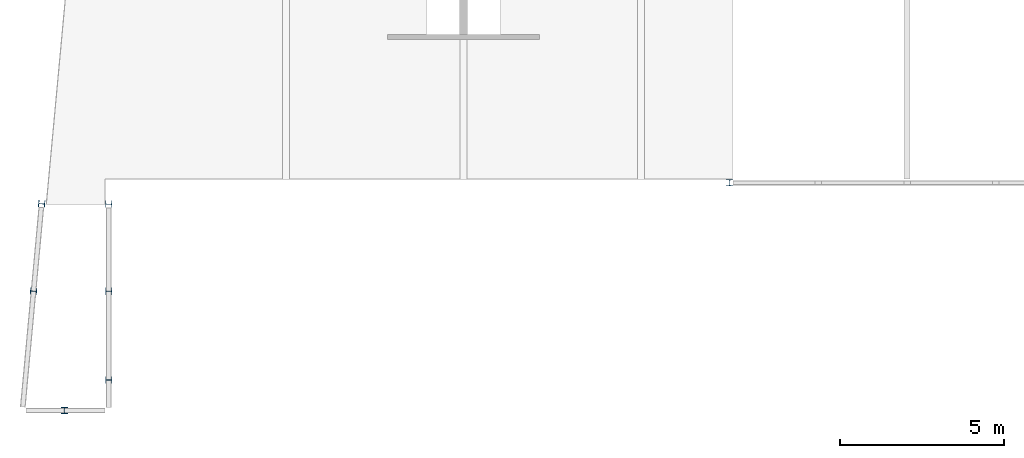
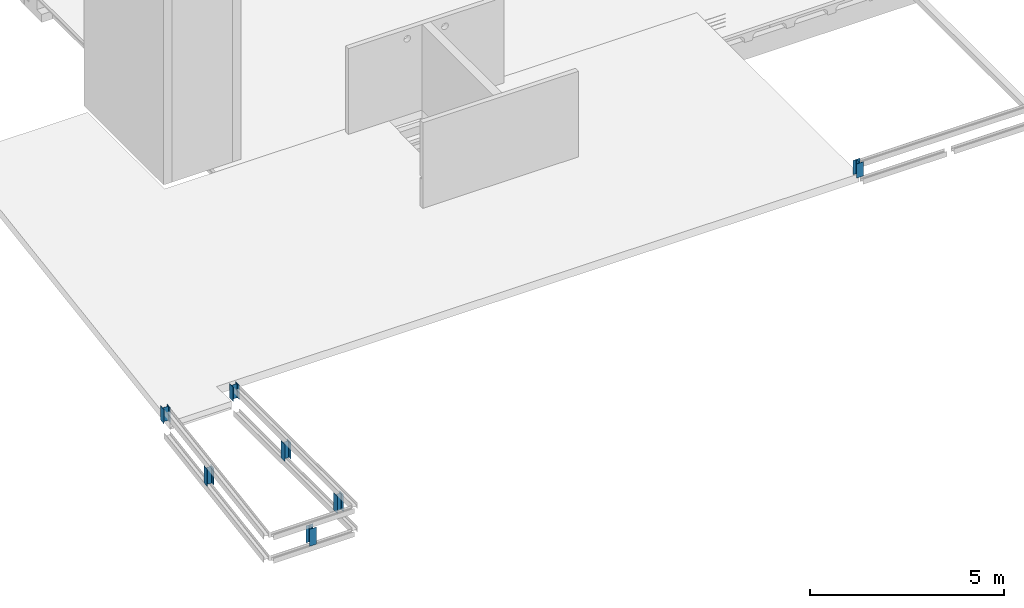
# One storey, part 4 of 36: 7 columns.
"""IFC2X3 building model written with IfcOpenShell, lengths in millimetres."""

from ifc_helpers import new_model, entity, si_unit, converted_unit, derived_unit, direction, frame, frame_2d, origin, place, context, subcontext, project, spatial, polyline, circle_curve, parameter, trimmed, segment, composite_curve, outline, extrude, source, transform, mapped, material, type_object, type_shapes, element, save


model = new_model("IFC2X3")

# Units and contexts
model_context = context("Model", 3, precision=0.01, world=origin(), true_north=direction((6.12303176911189e-17, 1.0)))
body_context = subcontext(model_context, "Body", "Model", "MODEL_VIEW")
ifc_project = project(units=[si_unit("LENGTHUNIT", "METRE", prefix="MILLI"), si_unit("AREAUNIT", "SQUARE_METRE"), si_unit("VOLUMEUNIT", "CUBIC_METRE"), converted_unit("PLANEANGLEUNIT", "DEGREE", entity("IfcRatioMeasure", 0.0174532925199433), si_unit("PLANEANGLEUNIT", "RADIAN"), dimensions=[0, 0, 0, 0, 0, 0, 0]), si_unit("MASSUNIT", "GRAM", prefix="KILO"), derived_unit("MASSDENSITYUNIT", [(si_unit("MASSUNIT", "GRAM", prefix="KILO"), 1), (si_unit("LENGTHUNIT", "METRE"), -3)]), si_unit("TIMEUNIT", "SECOND"), si_unit("FREQUENCYUNIT", "HERTZ"), si_unit("THERMODYNAMICTEMPERATUREUNIT", "DEGREE_CELSIUS"), derived_unit("THERMALTRANSMITTANCEUNIT", [(si_unit("MASSUNIT", "GRAM", prefix="KILO"), 1), (si_unit("THERMODYNAMICTEMPERATUREUNIT", "KELVIN"), -1), (si_unit("TIMEUNIT", "SECOND"), -3)]), derived_unit("VOLUMETRICFLOWRATEUNIT", [(si_unit("LENGTHUNIT", "METRE"), 3), (si_unit("TIMEUNIT", "SECOND"), -1)]), si_unit("ELECTRICCURRENTUNIT", "AMPERE"), si_unit("ELECTRICVOLTAGEUNIT", "VOLT"), si_unit("POWERUNIT", "WATT"), si_unit("FORCEUNIT", "NEWTON", prefix="KILO"), si_unit("ILLUMINANCEUNIT", "LUX"), si_unit("LUMINOUSFLUXUNIT", "LUMEN"), si_unit("LUMINOUSINTENSITYUNIT", "CANDELA"), derived_unit("USERDEFINED", [(si_unit("MASSUNIT", "GRAM", prefix="KILO"), -1), (si_unit("LENGTHUNIT", "METRE"), -2), (si_unit("TIMEUNIT", "SECOND"), 3), (si_unit("LUMINOUSFLUXUNIT", "LUMEN"), 1)]), derived_unit("LINEARVELOCITYUNIT", [(si_unit("LENGTHUNIT", "METRE"), 1), (si_unit("TIMEUNIT", "SECOND"), -1)]), si_unit("PRESSUREUNIT", "PASCAL"), derived_unit("USERDEFINED", [(si_unit("LENGTHUNIT", "METRE"), -2), (si_unit("MASSUNIT", "GRAM", prefix="KILO"), 1), (si_unit("TIMEUNIT", "SECOND"), -2)])], contexts=[model_context])

# Site, building, storey
site_placement = place(None, origin())
site = spatial("IfcSite", under=ifc_project, at=site_placement, Name="Default", CompositionType="ELEMENT")
building_placement = place(site_placement, origin())
building = spatial("IfcBuilding", under=site, at=building_placement, Name="niet gebruiken", CompositionType="ELEMENT")
storey_placement = place(building_placement, frame((0.0, 0.0, 12600.0)))
storey = spatial("IfcBuildingStorey", under=building, at=storey_placement, Name="04 vierde verdieping", CompositionType="ELEMENT", Elevation=12600.0)

# Columns
ifc_material = material(Name="NLRS_h2_staal")
column_type_1 = type_object("IfcColumnType", Name="kolom HEA 200", PredefinedType="COLUMN", material=ifc_material)
shared_shape_1 = source(origin(), body_context, "Body", "SweptSolid", [
    extrude(outline(composite_curve([segment(polyline([(85.0, -100.0), (95.0, -100.0)]), True, "CONTINUOUS"), segment(polyline([(95.0, -100.0), (95.0, 100.0)]), True, "CONTINUOUS"), segment(polyline([(95.0, 100.0), (85.0, 100.0)]), True, "CONTINUOUS"), segment(polyline([(85.0, 100.0), (85.0, 21.2500000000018)]), True, "CONTINUOUS"), segment(trimmed(circle_curve(frame_2d((67.0, 21.2500000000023), x_axis=(1.0, 0.0)), 18.0000000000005), [parameter(270.000000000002)], [parameter(0.0)], True, "PARAMETER"), False, "CONTINUOUS"), segment(polyline([(67.0, 3.25000000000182), (-67.0, 3.25000000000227)]), True, "CONTINUOUS"), segment(trimmed(circle_curve(frame_2d((-67.0, 21.250000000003), x_axis=(0.0, -1.0)), 18.0000000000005), [parameter(270.000000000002)], [parameter(0.0)], True, "PARAMETER"), False, "CONTINUOUS"), segment(polyline([(-85.0, 21.2500000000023), (-85.0, 100.0)]), True, "CONTINUOUS"), segment(polyline([(-85.0, 100.0), (-95.0, 100.0)]), True, "CONTINUOUS"), segment(polyline([(-95.0, 100.0), (-95.0, -100.0)]), True, "CONTINUOUS"), segment(polyline([(-95.0, -100.0), (-85.0, -100.0)]), True, "CONTINUOUS"), segment(polyline([(-85.0, -100.0), (-85.0, -21.2499999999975)]), True, "CONTINUOUS"), segment(trimmed(circle_curve(frame_2d((-67.0, -21.249999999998), x_axis=(-1.0, 0.0)), 18.0000000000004), [parameter(270.000000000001)], [parameter(0.0)], True, "PARAMETER"), False, "CONTINUOUS"), segment(polyline([(-67.0, -3.2499999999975), (67.0, -3.24999999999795)]), True, "CONTINUOUS"), segment(trimmed(circle_curve(frame_2d((67.0, -21.2499999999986), x_axis=(0.0, 1.0)), 18.0000000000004), [parameter(270.000000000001)], [parameter(0.0)], True, "PARAMETER"), False, "CONTINUOUS"), segment(polyline([(85.0, -21.2499999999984), (85.0, -100.0)]), True, "CONTINUOUS")], self_intersect=False)), frame((1350.0, -6630.0, 12285.0), z_axis=(0.0, 0.0, 1.0), x_axis=(0.0, -1.0, 0.0)), (0.0, 0.0, 1.0), 532.0),
])
type_shapes(column_type_1, [shared_shape_1])
column_placement = place(storey_placement, frame((0.0, 0.0, -12600.0)))
element("IfcColumn", 1, at=column_placement, inside=storey, type_object=column_type_1, material=ifc_material, Name="NLRS_28.11_SCO_TLB_stalen kolom HEA_gen:kolom HEA 200", ObjectType="kolom HEA 200", context=body_context, shape_type="MappedRepresentation", body=[
    mapped(shared_shape_1, transform((0.0, 0.0, 0.0), scale=1.0)),
])
column_type_2 = type_object("IfcColumnType", Name="kolom HEA 200", PredefinedType="COLUMN", material=ifc_material)
shared_shape_2 = source(origin(), body_context, "Body", "SweptSolid", [
    extrude(outline(composite_curve([segment(polyline([(85.0, -100.0), (95.0, -100.0)]), True, "CONTINUOUS"), segment(polyline([(95.0, -100.0), (95.0, 100.0)]), True, "CONTINUOUS"), segment(polyline([(95.0, 100.0), (85.0, 100.0)]), True, "CONTINUOUS"), segment(polyline([(85.0, 100.0), (85.0, 21.2499999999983)]), True, "CONTINUOUS"), segment(trimmed(circle_curve(frame_2d((67.0, 21.2499999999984), x_axis=(1.0, 0.0)), 18.0), [parameter(270.0)], [parameter(0.0)], True, "PARAMETER"), False, "CONTINUOUS"), segment(polyline([(67.0, 3.24999999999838), (-67.0, 3.24999999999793)]), True, "CONTINUOUS"), segment(trimmed(circle_curve(frame_2d((-67.0, 21.2499999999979), x_axis=(0.0, -1.0)), 18.0), [parameter(270.0)], [parameter(0.0)], True, "PARAMETER"), False, "CONTINUOUS"), segment(polyline([(-85.0, 21.2499999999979), (-85.0, 100.0)]), True, "CONTINUOUS"), segment(polyline([(-85.0, 100.0), (-95.0, 100.0)]), True, "CONTINUOUS"), segment(polyline([(-95.0, 100.0), (-95.0, -100.0)]), True, "CONTINUOUS"), segment(polyline([(-95.0, -100.0), (-85.0, -100.0)]), True, "CONTINUOUS"), segment(polyline([(-85.0, -100.0), (-85.0, -21.250000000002)]), True, "CONTINUOUS"), segment(trimmed(circle_curve(frame_2d((-67.0, -21.2500000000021), x_axis=(-1.0, 0.0)), 18.0), [parameter(270.0)], [parameter(0.0)], True, "PARAMETER"), False, "CONTINUOUS"), segment(polyline([(-67.0, -3.25000000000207), (67.0, -3.25000000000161)]), True, "CONTINUOUS"), segment(trimmed(circle_curve(frame_2d((67.0, -21.2500000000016), x_axis=(0.0, 1.0)), 18.0), [parameter(270.0)], [parameter(0.0)], True, "PARAMETER"), False, "CONTINUOUS"), segment(polyline([(85.0, -21.2500000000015), (85.0, -100.0)]), True, "CONTINUOUS")], self_intersect=False)), frame((0.0, 0.0, 12285.0), z_axis=(0.0, 0.0, 1.0), x_axis=(0.0, -1.0, 0.0)), (0.0, 0.0, 1.0), 532.0),
])
type_shapes(column_type_2, [shared_shape_2])
for number, where, z_axis, x_axis, name in (
    (2, (2700.0, -3002.05001415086, -12600.0), (0.0, 0.0, 1.0), (0.0, 1.0, 0.0), "NLRS_28.11_SCO_TLB_stalen kolom HEA_gen:kolom HEA 200"),
    (3, (411.676103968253, -3000.17455730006, -12600.0), (0.0, 0.0, 1.0), (0.0922987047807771, 0.995731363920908, 0.0), "NLRS_28.11_SCO_TLB_stalen kolom HEA_gen:kolom HEA 200"),
    (4, (2700.0, -5702.04999999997, -12600.0), (0.0, 0.0, 1.0), (0.0, 1.0, 0.0), "NLRS_28.11_SCO_TLB_stalen kolom HEA_gen:kolom HEA 200"),
):
    element("IfcColumn", number, at=place(storey_placement, frame(where, z_axis=z_axis, x_axis=x_axis)), inside=storey, type_object=column_type_2, material=ifc_material, Name=name, ObjectType="kolom HEA 200", context=body_context, shape_type="MappedRepresentation", body=[
        mapped(shared_shape_2, transform((0.0, 0.0, 0.0), scale=1.0)),
    ])
column_type_3 = type_object("IfcColumnType", Name="kolom HEA 200", PredefinedType="COLUMN", material=ifc_material)
shared_shape_3 = source(origin(), body_context, "Body", "SweptSolid", [
    extrude(outline(composite_curve([segment(polyline([(85.0, -100.0), (95.0, -100.0)]), True, "CONTINUOUS"), segment(polyline([(95.0, -100.0), (95.0, 100.0)]), True, "CONTINUOUS"), segment(polyline([(95.0, 100.0), (85.0, 100.0)]), True, "CONTINUOUS"), segment(polyline([(85.0, 100.0), (85.0, 21.2499999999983)]), True, "CONTINUOUS"), segment(trimmed(circle_curve(frame_2d((67.0, 21.2499999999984), x_axis=(1.0, 0.0)), 18.0), [parameter(270.0)], [parameter(0.0)], True, "PARAMETER"), False, "CONTINUOUS"), segment(polyline([(67.0, 3.24999999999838), (-67.0, 3.24999999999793)]), True, "CONTINUOUS"), segment(trimmed(circle_curve(frame_2d((-67.0, 21.2499999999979), x_axis=(0.0, -1.0)), 18.0), [parameter(270.0)], [parameter(0.0)], True, "PARAMETER"), False, "CONTINUOUS"), segment(polyline([(-85.0, 21.2499999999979), (-85.0, 100.0)]), True, "CONTINUOUS"), segment(polyline([(-85.0, 100.0), (-95.0, 100.0)]), True, "CONTINUOUS"), segment(polyline([(-95.0, 100.0), (-95.0, -100.0)]), True, "CONTINUOUS"), segment(polyline([(-95.0, -100.0), (-85.0, -100.0)]), True, "CONTINUOUS"), segment(polyline([(-85.0, -100.0), (-85.0, -21.250000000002)]), True, "CONTINUOUS"), segment(trimmed(circle_curve(frame_2d((-67.0, -21.2500000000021), x_axis=(-1.0, 0.0)), 18.0), [parameter(270.0)], [parameter(0.0)], True, "PARAMETER"), False, "CONTINUOUS"), segment(polyline([(-67.0, -3.25000000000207), (67.0, -3.25000000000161)]), True, "CONTINUOUS"), segment(trimmed(circle_curve(frame_2d((67.0, -21.2500000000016), x_axis=(0.0, 1.0)), 18.0), [parameter(270.0)], [parameter(0.0)], True, "PARAMETER"), False, "CONTINUOUS"), segment(polyline([(85.0, -21.2500000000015), (85.0, -100.0)]), True, "CONTINUOUS")], self_intersect=False)), frame((0.0, 0.0, 12555.0), z_axis=(0.0, 0.0, 1.0), x_axis=(0.0, -1.0, 0.0)), (0.0, 0.0, 1.0), 445.000000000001),
])
type_shapes(column_type_3, [shared_shape_3])
for number, where, z_axis, x_axis, name in (
    (5, (2700.0, -349.99979019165, -12600.0), (0.0, 0.0, 1.0), (0.0, 1.0, 0.0), "NLRS_28.11_SCO_TLB_stalen kolom HEA_gen:kolom HEA 200"),
    (6, (658.797821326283, -339.128281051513, -12600.0), (0.0, 0.0, 1.0), (0.092370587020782, 0.995724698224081, 0.0), "NLRS_28.11_SCO_TLB_stalen kolom HEA_gen:kolom HEA 200"),
    (7, (21600.0, 300.0, -12600.0), (0.0, 0.0, 1.0), (-1.0, 0.0, 0.0), "NLRS_28.11_SCO_TLB_stalen kolom HEA_gen:kolom HEA 200"),
):
    element("IfcColumn", number, at=place(storey_placement, frame(where, z_axis=z_axis, x_axis=x_axis)), inside=storey, type_object=column_type_3, material=ifc_material, Name=name, ObjectType="kolom HEA 200", context=body_context, shape_type="MappedRepresentation", body=[
        mapped(shared_shape_3, transform((0.0, 0.0, 0.0), scale=1.0)),
    ])

save(model, "model.ifc")
